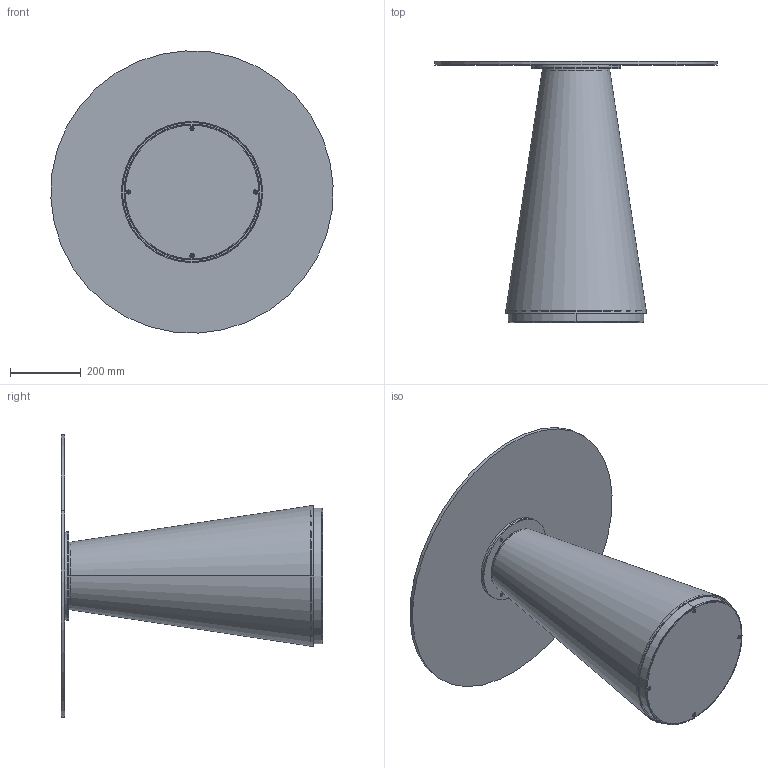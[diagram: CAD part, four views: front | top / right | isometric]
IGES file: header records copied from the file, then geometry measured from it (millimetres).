
Start section: SolidWorks IGES file using analytic representation for surfaces
Global section: file name: Y:\eforma\TECNICO\SOLIDWORKS\E-FORMA\5-TAVOLINI BISTRO\TED\02 parts\TE20G.IGS; native system: SolidWorks 2022; preprocessor: SolidWorks 2022; author: eforma.tech; date: 240808.095057; units: millimetre
Bounding box: 799.2 x 739.5 x 799.2 mm (x, y, z)
Volume: 6705508.9 mm3; surface area: 2938618.9 mm2
Topology: 15 solids, 15 shells, 370 faces, 781 edges, 434 vertices
Faces by surface type: revolution 193, plane 177
